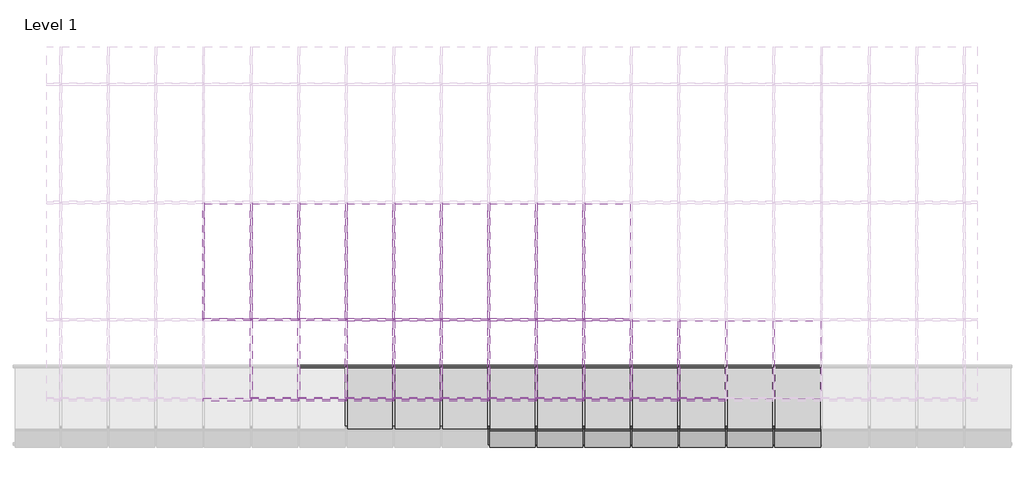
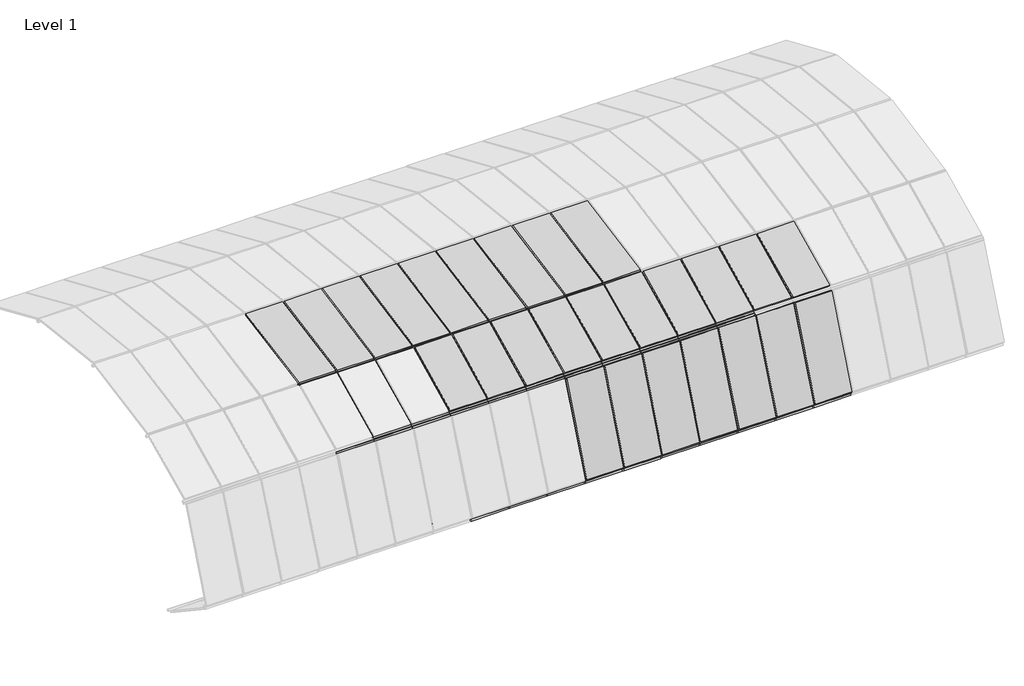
# One storey, part 18 of 23: 84 members, 36 plates.
"""IFC4 building model written with IfcOpenShell, lengths in millimetres."""

from ifc_helpers import new_model, si_unit, origin, place, context, project, spatial, transform, mapped, element, save
from components import member_0f8f75f6, member_68981e21, member_3e1f1dd8, member_42213d33, member_14e241b9, member_309acb9e, system_panel_glazed_36155e08, system_panel_glazed_4484050c, system_panel_glazed_e96a6bf3, system_panel_glazed_a8ce3bc7

model = new_model("IFC4")

# Units and contexts
model_context = context("Model", 3, world=origin())
ifc_project = project(units=[si_unit("LENGTHUNIT", "METRE", prefix="MILLI")], contexts=[model_context])

# Site, building, storey
site = spatial("IfcSite", under=ifc_project)
building = spatial("IfcBuilding", under=site)
storey = spatial("IfcBuildingStorey", under=building, Name="Level 1", Elevation=0.0)

# Members
placement = place(None, origin())
member_shape = member_0f8f75f6(model_context)
element("IfcMember", 1, ObjectType="Rectangular Mullion : 1\" Square", at=placement, inside=storey, context=model_context, shape_type="MappedRepresentation", body=[
    mapped(member_shape, transform((-159.3499814, 2518.7804857, 14.1400027), x_axis=(0.9999999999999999, 0.0, 0.0), y_axis=(0.0, -0.5566930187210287, -0.8307182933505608), z_axis=(0.0, 0.8307182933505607, -0.5566930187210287))),
])
element("IfcMember", 2, ObjectType="Rectangular Mullion : 1\" Square", at=placement, inside=storey, context=model_context, shape_type="MappedRepresentation", body=[
    mapped(member_shape, transform((-3816.9499814, 2518.7804857, 14.1400027), x_axis=(1.0, 0.0, 0.0), y_axis=(0.0, -0.5566930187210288, -0.8307182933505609), z_axis=(0.0, 0.8307182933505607, -0.5566930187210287))),
])
element("IfcMember", 3, ObjectType="Rectangular Mullion : 1\" Square", at=placement, inside=storey, context=model_context, shape_type="MappedRepresentation", body=[
    mapped(member_shape, transform((-3207.3499814, 2518.7804857, 14.1400027), x_axis=(1.0, 0.0, 0.0), y_axis=(0.0, -0.5566930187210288, -0.8307182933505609), z_axis=(0.0, 0.8307182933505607, -0.5566930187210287))),
])
element("IfcMember", 4, ObjectType="Rectangular Mullion : 1\" Square", at=placement, inside=storey, context=model_context, shape_type="MappedRepresentation", body=[
    mapped(member_shape, transform((-2597.7499814, 2518.7804857, 14.1400027), x_axis=(1.0, 0.0, 0.0), y_axis=(0.0, -0.5566930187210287, -0.8307182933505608), z_axis=(0.0, 0.8307182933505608, -0.5566930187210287))),
])
element("IfcMember", 5, ObjectType="Rectangular Mullion : 1\" Square", at=placement, inside=storey, context=model_context, shape_type="MappedRepresentation", body=[
    mapped(member_shape, transform((-1988.1499814, 2518.7804857, 14.1400027), x_axis=(1.0, 0.0, 0.0), y_axis=(0.0, -0.5566930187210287, -0.8307182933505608), z_axis=(0.0, 0.8307182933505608, -0.5566930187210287))),
])
element("IfcMember", 6, ObjectType="Rectangular Mullion : 1\" Square", at=placement, inside=storey, context=model_context, shape_type="MappedRepresentation", body=[
    mapped(member_shape, transform((-1378.5499814, 2518.7804857, 14.1400027), x_axis=(1.0, 0.0, 0.0), y_axis=(0.0, -0.5566930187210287, -0.8307182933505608), z_axis=(0.0, 0.8307182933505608, -0.5566930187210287))),
])
element("IfcMember", 7, ObjectType="Rectangular Mullion : 1\" Square", at=placement, inside=storey, context=model_context, shape_type="MappedRepresentation", body=[
    mapped(member_shape, transform((-768.9499814, 2518.7804857, 14.1400027), x_axis=(0.9999999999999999, 0.0, 0.0), y_axis=(0.0, -0.5566930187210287, -0.8307182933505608), z_axis=(0.0, 0.8307182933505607, -0.5566930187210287))),
])
element("IfcMember", 8, ObjectType="Rectangular Mullion : 1\" Square", at=placement, inside=storey, context=model_context, shape_type="MappedRepresentation", body=[
    mapped(member_shape, transform((-5645.7499814, 2518.7804857, 14.1400027), x_axis=(1.0, 0.0, 0.0), y_axis=(0.0, -0.5566930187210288, -0.8307182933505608), z_axis=(0.0, 0.8307182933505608, -0.5566930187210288))),
])
element("IfcMember", 9, ObjectType="Rectangular Mullion : 1\" Square", at=placement, inside=storey, context=model_context, shape_type="MappedRepresentation", body=[
    mapped(member_shape, transform((-5036.1499814, 2518.7804857, 14.1400027), x_axis=(1.0, 0.0, 0.0), y_axis=(0.0, -0.5566930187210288, -0.8307182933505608), z_axis=(0.0, 0.8307182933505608, -0.5566930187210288))),
])
element("IfcMember", 10, ObjectType="Rectangular Mullion : 1\" Square", at=placement, inside=storey, context=model_context, shape_type="MappedRepresentation", body=[
    mapped(member_shape, transform((-4426.5499814, 2518.7804857, 14.1400027), x_axis=(1.0, 0.0, 0.0), y_axis=(0.0, -0.5566930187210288, -0.8307182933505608), z_axis=(0.0, 0.8307182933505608, -0.5566930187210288))),
])
member_2_shape = member_68981e21(model_context)
element("IfcMember", 11, ObjectType="Rectangular Mullion : 1\" Square", at=placement, inside=storey, context=model_context, shape_type="MappedRepresentation", body=[
    mapped(member_2_shape, transform((-4426.5499814, 2539.8807303, 0.0), x_axis=(0.0, 0.8307182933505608, -0.5566930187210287), y_axis=(0.0, -0.5566930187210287, -0.8307182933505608), z_axis=(-1.0, 0.0, 0.0))),
])
element("IfcMember", 12, ObjectType="Rectangular Mullion : 1\" Square", at=placement, inside=storey, context=model_context, shape_type="MappedRepresentation", body=[
    mapped(member_2_shape, transform((-3816.9499814, 2539.8807303, 0.0), x_axis=(0.0, 0.8307182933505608, -0.5566930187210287), y_axis=(0.0, -0.5566930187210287, -0.8307182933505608), z_axis=(-1.0, 0.0, 0.0))),
])
element("IfcMember", 13, ObjectType="Rectangular Mullion : 1\" Square", at=placement, inside=storey, context=model_context, shape_type="MappedRepresentation", body=[
    mapped(member_2_shape, transform((-3207.3499814, 2539.8807303, 0.0), x_axis=(0.0, 0.8307182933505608, -0.5566930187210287), y_axis=(0.0, -0.5566930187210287, -0.8307182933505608), z_axis=(-1.0, 0.0, 0.0))),
])
element("IfcMember", 14, ObjectType="Rectangular Mullion : 1\" Square", at=placement, inside=storey, context=model_context, shape_type="MappedRepresentation", body=[
    mapped(member_2_shape, transform((-2597.7499814, 2539.8807303, 0.0), x_axis=(0.0, 0.8307182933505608, -0.5566930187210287), y_axis=(0.0, -0.5566930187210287, -0.8307182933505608), z_axis=(-1.0, 0.0, 0.0))),
])
element("IfcMember", 15, ObjectType="Rectangular Mullion : 1\" Square", at=placement, inside=storey, context=model_context, shape_type="MappedRepresentation", body=[
    mapped(member_2_shape, transform((-1988.1499814, 2539.8807303, 0.0), x_axis=(0.0, 0.8307182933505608, -0.5566930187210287), y_axis=(0.0, -0.5566930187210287, -0.8307182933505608), z_axis=(-1.0, 0.0, 0.0))),
])
element("IfcMember", 16, ObjectType="Rectangular Mullion : 1\" Square", at=placement, inside=storey, context=model_context, shape_type="MappedRepresentation", body=[
    mapped(member_2_shape, transform((-1378.5499814, 2539.8807303, 0.0), x_axis=(0.0, 0.8307182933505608, -0.5566930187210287), y_axis=(0.0, -0.5566930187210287, -0.8307182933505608), z_axis=(-1.0, 0.0, 0.0))),
])
element("IfcMember", 17, ObjectType="Rectangular Mullion : 1\" Square", at=placement, inside=storey, context=model_context, shape_type="MappedRepresentation", body=[
    mapped(member_2_shape, transform((-768.9499814, 2539.8807303, 0.0), x_axis=(0.0, 0.8307182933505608, -0.5566930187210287), y_axis=(0.0, -0.5566930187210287, -0.8307182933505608), z_axis=(-1.0, 0.0, 0.0))),
])
element("IfcMember", 18, ObjectType="Rectangular Mullion : 1\" Square", at=placement, inside=storey, context=model_context, shape_type="MappedRepresentation", body=[
    mapped(member_2_shape, transform((-159.3499814, 2539.8807303, 0.0), x_axis=(0.0, 0.8307182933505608, -0.5566930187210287), y_axis=(0.0, -0.5566930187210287, -0.8307182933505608), z_axis=(-1.0, 0.0, 0.0))),
])
element("IfcMember", 19, ObjectType="Rectangular Mullion : 1\" Square", at=placement, inside=storey, context=model_context, shape_type="MappedRepresentation", body=[
    mapped(member_2_shape, transform((-6255.3499814, 2539.8807303, 0.0), x_axis=(0.0, 0.8307182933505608, -0.5566930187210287), y_axis=(0.0, -0.5566930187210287, -0.8307182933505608), z_axis=(-1.0, 0.0, 0.0))),
])
element("IfcMember", 20, ObjectType="Rectangular Mullion : 1\" Square", at=placement, inside=storey, context=model_context, shape_type="MappedRepresentation", body=[
    mapped(member_2_shape, transform((-5645.7499814, 2539.8807303, 0.0), x_axis=(0.0, 0.8307182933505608, -0.5566930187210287), y_axis=(0.0, -0.5566930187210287, -0.8307182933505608), z_axis=(-1.0, 0.0, 0.0))),
])
element("IfcMember", 21, ObjectType="Rectangular Mullion : 1\" Square", at=placement, inside=storey, context=model_context, shape_type="MappedRepresentation", body=[
    mapped(member_2_shape, transform((-5036.1499814, 2539.8807303, 0.0), x_axis=(0.0, 0.8307182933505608, -0.5566930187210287), y_axis=(0.0, -0.5566930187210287, -0.8307182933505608), z_axis=(-1.0, 0.0, 0.0))),
])
element("IfcMember", 22, ObjectType="Rectangular Mullion : 1\" Square", at=placement, inside=storey, context=model_context, shape_type="MappedRepresentation", body=[
    mapped(member_2_shape, transform((-6864.9499814, 2108.5088854, 2085.6089632), x_axis=(0.0, -0.9009025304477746, -0.4340214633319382), y_axis=(0.0, -0.4340214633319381, 0.9009025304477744), z_axis=(-1.0, 0.0, 0.0))),
])
element("IfcMember", 23, ObjectType="Rectangular Mullion : 1\" Square", at=placement, inside=storey, context=model_context, shape_type="MappedRepresentation", body=[
    mapped(member_2_shape, transform((-6255.3499814, 2108.5088854, 2085.6089632), x_axis=(0.0, -0.9009025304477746, -0.4340214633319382), y_axis=(0.0, -0.4340214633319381, 0.9009025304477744), z_axis=(-1.0, 0.0, 0.0))),
])
element("IfcMember", 24, ObjectType="Rectangular Mullion : 1\" Square", at=placement, inside=storey, context=model_context, shape_type="MappedRepresentation", body=[
    mapped(member_2_shape, transform((-5645.7499814, 2108.5088854, 2085.6089632), x_axis=(0.0, -0.9009025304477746, -0.4340214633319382), y_axis=(0.0, -0.4340214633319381, 0.9009025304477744), z_axis=(-1.0, 0.0, 0.0))),
])
element("IfcMember", 25, ObjectType="Rectangular Mullion : 1\" Square", at=placement, inside=storey, context=model_context, shape_type="MappedRepresentation", body=[
    mapped(member_2_shape, transform((-5036.1499814, 2108.5088854, 2085.6089632), x_axis=(0.0, -0.9009025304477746, -0.4340214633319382), y_axis=(0.0, -0.4340214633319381, 0.9009025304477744), z_axis=(-1.0, 0.0, 0.0))),
])
element("IfcMember", 26, ObjectType="Rectangular Mullion : 1\" Square", at=placement, inside=storey, context=model_context, shape_type="MappedRepresentation", body=[
    mapped(member_2_shape, transform((-4426.5499814, 2108.5088854, 2085.6089632), x_axis=(0.0, -0.9009025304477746, -0.4340214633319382), y_axis=(0.0, -0.4340214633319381, 0.9009025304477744), z_axis=(-1.0, 0.0, 0.0))),
])
element("IfcMember", 27, ObjectType="Rectangular Mullion : 1\" Square", at=placement, inside=storey, context=model_context, shape_type="MappedRepresentation", body=[
    mapped(member_2_shape, transform((-3816.9499814, 2108.5088854, 2085.6089632), x_axis=(0.0, -0.9009025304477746, -0.4340214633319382), y_axis=(0.0, -0.4340214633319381, 0.9009025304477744), z_axis=(-1.0, 0.0, 0.0))),
])
element("IfcMember", 28, ObjectType="Rectangular Mullion : 1\" Square", at=placement, inside=storey, context=model_context, shape_type="MappedRepresentation", body=[
    mapped(member_2_shape, transform((-3207.3499814, 2108.5088854, 2085.6089632), x_axis=(0.0, -0.9009025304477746, -0.4340214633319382), y_axis=(0.0, -0.4340214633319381, 0.9009025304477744), z_axis=(-1.0, 0.0, 0.0))),
])
element("IfcMember", 29, ObjectType="Rectangular Mullion : 1\" Square", at=placement, inside=storey, context=model_context, shape_type="MappedRepresentation", body=[
    mapped(member_2_shape, transform((-2597.7499814, 2108.5088854, 2085.6089632), x_axis=(0.0, -0.9009025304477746, -0.4340214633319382), y_axis=(0.0, -0.4340214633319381, 0.9009025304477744), z_axis=(-1.0, 0.0, 0.0))),
])
element("IfcMember", 30, ObjectType="Rectangular Mullion : 1\" Square", at=placement, inside=storey, context=model_context, shape_type="MappedRepresentation", body=[
    mapped(member_2_shape, transform((-1988.1499814, 2108.5088854, 2085.6089632), x_axis=(0.0, -0.9009025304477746, -0.4340214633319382), y_axis=(0.0, -0.4340214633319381, 0.9009025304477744), z_axis=(-1.0, 0.0, 0.0))),
])
element("IfcMember", 31, ObjectType="Rectangular Mullion : 1\" Square", at=placement, inside=storey, context=model_context, shape_type="MappedRepresentation", body=[
    mapped(member_2_shape, transform((-1378.5499814, 2108.5088854, 2085.6089632), x_axis=(0.0, -0.9009025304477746, -0.4340214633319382), y_axis=(0.0, -0.4340214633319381, 0.9009025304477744), z_axis=(-1.0, 0.0, 0.0))),
])
member_3_shape = member_3e1f1dd8(model_context)
element("IfcMember", 32, ObjectType="Rectangular Mullion : 1\" Square", at=placement, inside=storey, context=model_context, shape_type="MappedRepresentation", body=[
    mapped(member_3_shape, transform((-3816.9499814, 1534.1192339, 673.9955146), x_axis=(0.0, 0.38018576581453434, -0.9249101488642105), y_axis=(0.0, -0.9249101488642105, -0.38018576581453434), z_axis=(-1.0, 0.0, 0.0))),
])
element("IfcMember", 33, ObjectType="Rectangular Mullion : 1\" Square", at=placement, inside=storey, context=model_context, shape_type="MappedRepresentation", body=[
    mapped(member_3_shape, transform((-3207.3499814, 1534.1192339, 673.9955146), x_axis=(0.0, 0.38018576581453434, -0.9249101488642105), y_axis=(0.0, -0.9249101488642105, -0.38018576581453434), z_axis=(-1.0, 0.0, 0.0))),
])
element("IfcMember", 34, ObjectType="Rectangular Mullion : 1\" Square", at=placement, inside=storey, context=model_context, shape_type="MappedRepresentation", body=[
    mapped(member_3_shape, transform((-2597.7499814, 1534.1192339, 673.9955146), x_axis=(0.0, 0.38018576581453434, -0.9249101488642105), y_axis=(0.0, -0.9249101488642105, -0.38018576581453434), z_axis=(-1.0, 0.0, 0.0))),
])
element("IfcMember", 35, ObjectType="Rectangular Mullion : 1\" Square", at=placement, inside=storey, context=model_context, shape_type="MappedRepresentation", body=[
    mapped(member_3_shape, transform((-1988.1499814, 1534.1192339, 673.9955146), x_axis=(0.0, 0.38018576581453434, -0.9249101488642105), y_axis=(0.0, -0.9249101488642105, -0.38018576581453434), z_axis=(-1.0, 0.0, 0.0))),
])
element("IfcMember", 36, ObjectType="Rectangular Mullion : 1\" Square", at=placement, inside=storey, context=model_context, shape_type="MappedRepresentation", body=[
    mapped(member_3_shape, transform((-1378.5499814, 1534.1192339, 673.9955146), x_axis=(0.0, 0.38018576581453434, -0.9249101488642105), y_axis=(0.0, -0.9249101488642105, -0.38018576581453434), z_axis=(-1.0, 0.0, 0.0))),
])
element("IfcMember", 37, ObjectType="Rectangular Mullion : 1\" Square", at=placement, inside=storey, context=model_context, shape_type="MappedRepresentation", body=[
    mapped(member_3_shape, transform((-768.9499814, 1534.1192339, 673.9955146), x_axis=(0.0, 0.38018576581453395, -0.9249101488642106), y_axis=(0.0, -0.9249101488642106, -0.38018576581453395), z_axis=(-1.0, 0.0, 0.0))),
])
element("IfcMember", 38, ObjectType="Rectangular Mullion : 1\" Square", at=placement, inside=storey, context=model_context, shape_type="MappedRepresentation", body=[
    mapped(member_3_shape, transform((-159.3499814, 1534.1192339, 673.9955146), x_axis=(0.0, 0.38018576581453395, -0.9249101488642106), y_axis=(0.0, -0.9249101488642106, -0.38018576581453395), z_axis=(-1.0, 0.0, 0.0))),
])
element("IfcMember", 39, ObjectType="Rectangular Mullion : 1\" Square", at=placement, inside=storey, context=model_context, shape_type="MappedRepresentation", body=[
    mapped(member_3_shape, transform((-7474.5499814, 3134.3722562, 2579.8319299), x_axis=(0.0, -0.9436447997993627, -0.33095995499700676), y_axis=(0.0, -0.33095995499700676, 0.9436447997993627), z_axis=(-1.0, 0.0, 0.0))),
])
element("IfcMember", 40, ObjectType="Rectangular Mullion : 1\" Square", at=placement, inside=storey, context=model_context, shape_type="MappedRepresentation", body=[
    mapped(member_3_shape, transform((-6864.9499814, 3134.3722562, 2579.8319299), x_axis=(0.0, -0.9436447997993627, -0.33095995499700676), y_axis=(0.0, -0.33095995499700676, 0.9436447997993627), z_axis=(-1.0, 0.0, 0.0))),
])
element("IfcMember", 41, ObjectType="Rectangular Mullion : 1\" Square", at=placement, inside=storey, context=model_context, shape_type="MappedRepresentation", body=[
    mapped(member_3_shape, transform((-6255.3499814, 3134.3722562, 2579.8319299), x_axis=(0.0, -0.9436447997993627, -0.33095995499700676), y_axis=(0.0, -0.33095995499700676, 0.9436447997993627), z_axis=(-1.0, 0.0, 0.0))),
])
element("IfcMember", 42, ObjectType="Rectangular Mullion : 1\" Square", at=placement, inside=storey, context=model_context, shape_type="MappedRepresentation", body=[
    mapped(member_3_shape, transform((-5645.7499814, 3134.3722562, 2579.8319299), x_axis=(0.0, -0.9436447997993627, -0.33095995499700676), y_axis=(0.0, -0.33095995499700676, 0.9436447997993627), z_axis=(-1.0, 0.0, 0.0))),
])
element("IfcMember", 43, ObjectType="Rectangular Mullion : 1\" Square", at=placement, inside=storey, context=model_context, shape_type="MappedRepresentation", body=[
    mapped(member_3_shape, transform((-5036.1499814, 3134.3722562, 2579.8319299), x_axis=(0.0, -0.9436447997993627, -0.33095995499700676), y_axis=(0.0, -0.33095995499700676, 0.9436447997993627), z_axis=(-1.0, 0.0, 0.0))),
])
element("IfcMember", 44, ObjectType="Rectangular Mullion : 1\" Square", at=placement, inside=storey, context=model_context, shape_type="MappedRepresentation", body=[
    mapped(member_3_shape, transform((-4426.5499814, 3134.3722562, 2579.8319299), x_axis=(0.0, -0.9436447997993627, -0.33095995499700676), y_axis=(0.0, -0.33095995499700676, 0.9436447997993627), z_axis=(-1.0, 0.0, 0.0))),
])
element("IfcMember", 45, ObjectType="Rectangular Mullion : 1\" Square", at=placement, inside=storey, context=model_context, shape_type="MappedRepresentation", body=[
    mapped(member_3_shape, transform((-3816.9499814, 3134.3722562, 2579.8319299), x_axis=(0.0, -0.9436447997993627, -0.33095995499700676), y_axis=(0.0, -0.33095995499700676, 0.9436447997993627), z_axis=(-1.0, 0.0, 0.0))),
])
element("IfcMember", 46, ObjectType="Rectangular Mullion : 1\" Square", at=placement, inside=storey, context=model_context, shape_type="MappedRepresentation", body=[
    mapped(member_3_shape, transform((-3207.3499814, 3134.3722562, 2579.8319299), x_axis=(0.0, -0.9436447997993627, -0.33095995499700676), y_axis=(0.0, -0.33095995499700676, 0.9436447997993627), z_axis=(-1.0, 0.0, 0.0))),
])
element("IfcMember", 47, ObjectType="Rectangular Mullion : 1\" Square", at=placement, inside=storey, context=model_context, shape_type="MappedRepresentation", body=[
    mapped(member_3_shape, transform((-2597.7499814, 3134.3722562, 2579.8319299), x_axis=(0.0, -0.9436447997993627, -0.33095995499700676), y_axis=(0.0, -0.33095995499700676, 0.9436447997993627), z_axis=(-1.0, 0.0, 0.0))),
])
member_4_shape = member_42213d33(model_context)
element("IfcMember", 48, ObjectType="Rectangular Mullion : 1\" Square", at=placement, inside=storey, context=model_context, shape_type="MappedRepresentation", body=[
    mapped(member_4_shape, transform((-159.3499814, 1538.9058143, 685.75896), x_axis=(0.9999999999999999, 0.0, 0.0), y_axis=(0.0, -0.926255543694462, 0.376896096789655), z_axis=(0.0, -0.37689609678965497, -0.9262555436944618))),
])
element("IfcMember", 49, ObjectType="Rectangular Mullion : 1\" Square", at=placement, inside=storey, context=model_context, shape_type="MappedRepresentation", body=[
    mapped(member_4_shape, transform((-3207.3499814, 1538.9058143, 685.75896), x_axis=(1.0, 0.0, 0.0), y_axis=(0.0, -0.926255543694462, 0.3768960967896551), z_axis=(0.0, -0.37689609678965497, -0.9262555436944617))),
])
element("IfcMember", 50, ObjectType="Rectangular Mullion : 1\" Square", at=placement, inside=storey, context=model_context, shape_type="MappedRepresentation", body=[
    mapped(member_4_shape, transform((-2597.7499814, 1538.9058143, 685.75896), x_axis=(1.0, 0.0, 0.0), y_axis=(0.0, -0.926255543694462, 0.3768960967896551), z_axis=(0.0, -0.37689609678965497, -0.9262555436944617))),
])
element("IfcMember", 51, ObjectType="Rectangular Mullion : 1\" Square", at=placement, inside=storey, context=model_context, shape_type="MappedRepresentation", body=[
    mapped(member_4_shape, transform((-1988.1499814, 1538.9058143, 685.75896), x_axis=(1.0, 0.0, 0.0), y_axis=(0.0, -0.926255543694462, 0.3768960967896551), z_axis=(0.0, -0.37689609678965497, -0.9262555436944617))),
])
element("IfcMember", 52, ObjectType="Rectangular Mullion : 1\" Square", at=placement, inside=storey, context=model_context, shape_type="MappedRepresentation", body=[
    mapped(member_4_shape, transform((-1378.5499814, 1538.9058143, 685.75896), x_axis=(1.0, 0.0, 0.0), y_axis=(0.0, -0.926255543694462, 0.3768960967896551), z_axis=(0.0, -0.37689609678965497, -0.9262555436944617))),
])
element("IfcMember", 53, ObjectType="Rectangular Mullion : 1\" Square", at=placement, inside=storey, context=model_context, shape_type="MappedRepresentation", body=[
    mapped(member_4_shape, transform((-768.9499814, 1538.9058143, 685.75896), x_axis=(0.9999999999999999, 0.0, 0.0), y_axis=(0.0, -0.926255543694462, 0.376896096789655), z_axis=(0.0, -0.37689609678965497, -0.9262555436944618))),
])
element("IfcMember", 54, ObjectType="Rectangular Mullion : 1\" Square", at=placement, inside=storey, context=model_context, shape_type="MappedRepresentation", body=[
    mapped(member_4_shape, transform((-3816.9499814, 1538.9058143, 685.75896), x_axis=(1.0, 0.0, 0.0), y_axis=(0.0, -0.9262555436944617, 0.37689609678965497), z_axis=(0.0, -0.3768960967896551, -0.926255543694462))),
])
element("IfcMember", 55, ObjectType="Rectangular Mullion : 1\" Square", at=placement, inside=storey, context=model_context, shape_type="MappedRepresentation", body=[
    mapped(member_2_shape, transform((-1988.1499814, 2108.5088854, 2085.6089632), x_axis=(0.0, 0.37689609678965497, 0.9262555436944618), y_axis=(0.0, -0.9262555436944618, 0.37689609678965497), z_axis=(1.0, 0.0, 0.0))),
])
element("IfcMember", 56, ObjectType="Rectangular Mullion : 1\" Square", at=placement, inside=storey, context=model_context, shape_type="MappedRepresentation", body=[
    mapped(member_2_shape, transform((-1378.5499814, 2108.5088854, 2085.6089632), x_axis=(0.0, 0.37689609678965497, 0.9262555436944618), y_axis=(0.0, -0.9262555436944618, 0.37689609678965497), z_axis=(1.0, 0.0, 0.0))),
])
element("IfcMember", 57, ObjectType="Rectangular Mullion : 1\" Square", at=placement, inside=storey, context=model_context, shape_type="MappedRepresentation", body=[
    mapped(member_2_shape, transform((-768.9499814, 2108.5088854, 2085.6089632), x_axis=(0.0, 0.37689609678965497, 0.9262555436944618), y_axis=(0.0, -0.9262555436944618, 0.37689609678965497), z_axis=(1.0, 0.0, 0.0))),
])
element("IfcMember", 58, ObjectType="Rectangular Mullion : 1\" Square", at=placement, inside=storey, context=model_context, shape_type="MappedRepresentation", body=[
    mapped(member_2_shape, transform((-6864.9499814, 2108.5088854, 2085.6089632), x_axis=(0.0, 0.37689609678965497, 0.9262555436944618), y_axis=(0.0, -0.9262555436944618, 0.37689609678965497), z_axis=(1.0, 0.0, 0.0))),
])
element("IfcMember", 59, ObjectType="Rectangular Mullion : 1\" Square", at=placement, inside=storey, context=model_context, shape_type="MappedRepresentation", body=[
    mapped(member_2_shape, transform((-6255.3499814, 2108.5088854, 2085.6089632), x_axis=(0.0, 0.37689609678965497, 0.9262555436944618), y_axis=(0.0, -0.9262555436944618, 0.37689609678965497), z_axis=(1.0, 0.0, 0.0))),
])
element("IfcMember", 60, ObjectType="Rectangular Mullion : 1\" Square", at=placement, inside=storey, context=model_context, shape_type="MappedRepresentation", body=[
    mapped(member_2_shape, transform((-5645.7499814, 2108.5088854, 2085.6089632), x_axis=(0.0, 0.37689609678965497, 0.9262555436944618), y_axis=(0.0, -0.9262555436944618, 0.37689609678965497), z_axis=(1.0, 0.0, 0.0))),
])
element("IfcMember", 61, ObjectType="Rectangular Mullion : 1\" Square", at=placement, inside=storey, context=model_context, shape_type="MappedRepresentation", body=[
    mapped(member_2_shape, transform((-5036.1499814, 2108.5088854, 2085.6089632), x_axis=(0.0, 0.37689609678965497, 0.9262555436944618), y_axis=(0.0, -0.9262555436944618, 0.37689609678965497), z_axis=(1.0, 0.0, 0.0))),
])
element("IfcMember", 62, ObjectType="Rectangular Mullion : 1\" Square", at=placement, inside=storey, context=model_context, shape_type="MappedRepresentation", body=[
    mapped(member_2_shape, transform((-4426.5499814, 2108.5088854, 2085.6089632), x_axis=(0.0, 0.37689609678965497, 0.9262555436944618), y_axis=(0.0, -0.9262555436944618, 0.37689609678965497), z_axis=(1.0, 0.0, 0.0))),
])
element("IfcMember", 63, ObjectType="Rectangular Mullion : 1\" Square", at=placement, inside=storey, context=model_context, shape_type="MappedRepresentation", body=[
    mapped(member_2_shape, transform((-3816.9499814, 2108.5088854, 2085.6089632), x_axis=(0.0, 0.3768960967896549, 0.9262555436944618), y_axis=(0.0, -0.9262555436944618, 0.3768960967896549), z_axis=(1.0, 0.0, 0.0))),
])
element("IfcMember", 64, ObjectType="Rectangular Mullion : 1\" Square", at=placement, inside=storey, context=model_context, shape_type="MappedRepresentation", body=[
    mapped(member_2_shape, transform((-3207.3499814, 2108.5088854, 2085.6089632), x_axis=(0.0, 0.37689609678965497, 0.9262555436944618), y_axis=(0.0, -0.9262555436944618, 0.37689609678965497), z_axis=(1.0, 0.0, 0.0))),
])
element("IfcMember", 65, ObjectType="Rectangular Mullion : 1\" Square", at=placement, inside=storey, context=model_context, shape_type="MappedRepresentation", body=[
    mapped(member_2_shape, transform((-2597.7499814, 2108.5088854, 2085.6089632), x_axis=(0.0, 0.37689609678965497, 0.9262555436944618), y_axis=(0.0, -0.9262555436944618, 0.37689609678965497), z_axis=(1.0, 0.0, 0.0))),
])
member_5_shape = member_14e241b9(model_context)
element("IfcMember", 66, ObjectType="Rectangular Mullion : 1\" Square", at=placement, inside=storey, context=model_context, shape_type="MappedRepresentation", body=[
    mapped(member_5_shape, transform((-2597.7499814, 2131.3918096, 2096.6331083), x_axis=(1.0, 0.0, 0.0), y_axis=(0.0, -0.4340214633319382, 0.9009025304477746), z_axis=(0.0, -0.9009025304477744, -0.4340214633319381))),
])
element("IfcMember", 67, ObjectType="Rectangular Mullion : 1\" Square", at=placement, inside=storey, context=model_context, shape_type="MappedRepresentation", body=[
    mapped(member_5_shape, transform((-1988.1499814, 2131.3918096, 2096.6331083), x_axis=(1.0, 0.0, 0.0), y_axis=(0.0, -0.4340214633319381, 0.9009025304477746), z_axis=(0.0, -0.9009025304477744, -0.434021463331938))),
])
element("IfcMember", 68, ObjectType="Rectangular Mullion : 1\" Square", at=placement, inside=storey, context=model_context, shape_type="MappedRepresentation", body=[
    mapped(member_5_shape, transform((-1378.5499814, 2131.3918096, 2096.6331083), x_axis=(1.0, 0.0, 0.0), y_axis=(0.0, -0.4340214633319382, 0.9009025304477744), z_axis=(0.0, -0.9009025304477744, -0.4340214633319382))),
])
element("IfcMember", 69, ObjectType="Rectangular Mullion : 1\" Square", at=placement, inside=storey, context=model_context, shape_type="MappedRepresentation", body=[
    mapped(member_5_shape, transform((-5645.7499814, 2131.3918096, 2096.6331083), x_axis=(1.0, 0.0, 0.0), y_axis=(0.0, -0.4340214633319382, 0.9009025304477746), z_axis=(0.0, -0.9009025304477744, -0.4340214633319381))),
])
element("IfcMember", 70, ObjectType="Rectangular Mullion : 1\" Square", at=placement, inside=storey, context=model_context, shape_type="MappedRepresentation", body=[
    mapped(member_5_shape, transform((-5036.1499814, 2131.3918096, 2096.6331083), x_axis=(1.0, 0.0, 0.0), y_axis=(0.0, -0.4340214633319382, 0.9009025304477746), z_axis=(0.0, -0.9009025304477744, -0.4340214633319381))),
])
element("IfcMember", 71, ObjectType="Rectangular Mullion : 1\" Square", at=placement, inside=storey, context=model_context, shape_type="MappedRepresentation", body=[
    mapped(member_5_shape, transform((-4426.5499814, 2131.3918096, 2096.6331083), x_axis=(1.0, 0.0, 0.0), y_axis=(0.0, -0.4340214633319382, 0.9009025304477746), z_axis=(0.0, -0.9009025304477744, -0.4340214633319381))),
])
element("IfcMember", 72, ObjectType="Rectangular Mullion : 1\" Square", at=placement, inside=storey, context=model_context, shape_type="MappedRepresentation", body=[
    mapped(member_5_shape, transform((-3816.9499814, 2131.3918096, 2096.6331083), x_axis=(1.0, 0.0, 0.0), y_axis=(0.0, -0.4340214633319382, 0.9009025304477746), z_axis=(0.0, -0.9009025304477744, -0.4340214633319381))),
])
element("IfcMember", 73, ObjectType="Rectangular Mullion : 1\" Square", at=placement, inside=storey, context=model_context, shape_type="MappedRepresentation", body=[
    mapped(member_5_shape, transform((-3207.3499814, 2131.3918096, 2096.6331083), x_axis=(1.0, 0.0, 0.0), y_axis=(0.0, -0.4340214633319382, 0.9009025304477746), z_axis=(0.0, -0.9009025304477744, -0.4340214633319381))),
])
element("IfcMember", 74, ObjectType="Rectangular Mullion : 1\" Square", at=placement, inside=storey, context=model_context, shape_type="MappedRepresentation", body=[
    mapped(member_5_shape, transform((-6864.9499814, 2131.3918096, 2096.6331083), x_axis=(1.0, 0.0, 0.0), y_axis=(0.0, -0.43402146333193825, 0.9009025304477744), z_axis=(0.0, -0.9009025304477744, -0.43402146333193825))),
])
element("IfcMember", 75, ObjectType="Rectangular Mullion : 1\" Square", at=placement, inside=storey, context=model_context, shape_type="MappedRepresentation", body=[
    mapped(member_5_shape, transform((-6255.3499814, 2131.3918096, 2096.6331083), x_axis=(1.0, 0.0, 0.0), y_axis=(0.0, -0.4340214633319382, 0.9009025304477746), z_axis=(0.0, -0.9009025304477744, -0.4340214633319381))),
])
member_6_shape = member_309acb9e(model_context)
element("IfcMember", 76, ObjectType="Rectangular Mullion : 1\" Square", at=placement, inside=storey, context=model_context, shape_type="MappedRepresentation", body=[
    mapped(member_6_shape, transform((-5645.7499814, 3146.8492645, 2582.2013738), x_axis=(1.0, 0.0, 0.0), y_axis=(0.0, -0.18657038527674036, 0.9824415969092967), z_axis=(0.0, -0.9824415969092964, -0.18657038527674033))),
])
element("IfcMember", 77, ObjectType="Rectangular Mullion : 1\" Square", at=placement, inside=storey, context=model_context, shape_type="MappedRepresentation", body=[
    mapped(member_6_shape, transform((-5036.1499814, 3146.8492645, 2582.2013738), x_axis=(1.0, 0.0, 0.0), y_axis=(0.0, -0.18657038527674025, 0.9824415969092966), z_axis=(0.0, -0.9824415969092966, -0.18657038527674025))),
])
element("IfcMember", 78, ObjectType="Rectangular Mullion : 1\" Square", at=placement, inside=storey, context=model_context, shape_type="MappedRepresentation", body=[
    mapped(member_6_shape, transform((-4426.5499814, 3146.8492645, 2582.2013738), x_axis=(1.0, 0.0, 0.0), y_axis=(0.0, -0.18657038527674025, 0.9824415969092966), z_axis=(0.0, -0.9824415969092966, -0.18657038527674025))),
])
element("IfcMember", 79, ObjectType="Rectangular Mullion : 1\" Square", at=placement, inside=storey, context=model_context, shape_type="MappedRepresentation", body=[
    mapped(member_6_shape, transform((-3816.9499814, 3146.8492645, 2582.2013738), x_axis=(1.0, 0.0, 0.0), y_axis=(0.0, -0.18657038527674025, 0.9824415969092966), z_axis=(0.0, -0.9824415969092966, -0.18657038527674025))),
])
element("IfcMember", 80, ObjectType="Rectangular Mullion : 1\" Square", at=placement, inside=storey, context=model_context, shape_type="MappedRepresentation", body=[
    mapped(member_6_shape, transform((-3207.3499814, 3146.8492645, 2582.2013738), x_axis=(1.0, 0.0, 0.0), y_axis=(0.0, -0.18657038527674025, 0.9824415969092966), z_axis=(0.0, -0.9824415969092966, -0.18657038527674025))),
])
element("IfcMember", 81, ObjectType="Rectangular Mullion : 1\" Square", at=placement, inside=storey, context=model_context, shape_type="MappedRepresentation", body=[
    mapped(member_6_shape, transform((-2597.7499814, 3146.8492645, 2582.2013738), x_axis=(1.0, 0.0, 0.0), y_axis=(0.0, -0.18657038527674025, 0.9824415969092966), z_axis=(0.0, -0.9824415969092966, -0.18657038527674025))),
])
element("IfcMember", 82, ObjectType="Rectangular Mullion : 1\" Square", at=placement, inside=storey, context=model_context, shape_type="MappedRepresentation", body=[
    mapped(member_6_shape, transform((-7474.5499814, 3146.8492645, 2582.2013738), x_axis=(1.0, 0.0, 0.0), y_axis=(0.0, -0.18657038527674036, 0.9824415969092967), z_axis=(0.0, -0.9824415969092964, -0.18657038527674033))),
])
element("IfcMember", 83, ObjectType="Rectangular Mullion : 1\" Square", at=placement, inside=storey, context=model_context, shape_type="MappedRepresentation", body=[
    mapped(member_6_shape, transform((-6864.9499814, 3146.8492645, 2582.2013738), x_axis=(1.0, 0.0, 0.0), y_axis=(0.0, -0.18657038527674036, 0.9824415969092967), z_axis=(0.0, -0.9824415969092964, -0.18657038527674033))),
])
element("IfcMember", 84, ObjectType="Rectangular Mullion : 1\" Square", at=placement, inside=storey, context=model_context, shape_type="MappedRepresentation", body=[
    mapped(member_6_shape, transform((-6255.3499814, 3146.8492645, 2582.2013738), x_axis=(1.0, 0.0, 0.0), y_axis=(0.0, -0.18657038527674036, 0.9824415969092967), z_axis=(0.0, -0.9824415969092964, -0.18657038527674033))),
])

# Plates
system_panel_glazed_shape = system_panel_glazed_36155e08(model_context)
element("IfcPlate", 85, ObjectType="System Panel : Glazed", at=placement, inside=storey, context=model_context, shape_type="MappedRepresentation", body=[
    mapped(system_panel_glazed_shape, transform((-3804.2499814, 1818.9207694, 1373.9205162), x_axis=(0.0, -0.37689609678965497, -0.9262555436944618), y_axis=(0.0, 0.9262555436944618, -0.37689609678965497), z_axis=(1.0, 0.0, 0.0))),
])
element("IfcPlate", 86, ObjectType="System Panel : Glazed", at=placement, inside=storey, context=model_context, shape_type="MappedRepresentation", body=[
    mapped(system_panel_glazed_shape, transform((-3194.6499814, 1818.9207694, 1373.9205162), x_axis=(0.0, -0.37689609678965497, -0.9262555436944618), y_axis=(0.0, 0.9262555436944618, -0.37689609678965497), z_axis=(1.0, 0.0, 0.0))),
])
element("IfcPlate", 87, ObjectType="System Panel : Glazed", at=placement, inside=storey, context=model_context, shape_type="MappedRepresentation", body=[
    mapped(system_panel_glazed_shape, transform((-2585.0499814, 1818.9207694, 1373.9205162), x_axis=(0.0, -0.37689609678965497, -0.9262555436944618), y_axis=(0.0, 0.9262555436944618, -0.37689609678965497), z_axis=(1.0, 0.0, 0.0))),
])
element("IfcPlate", 88, ObjectType="System Panel : Glazed", at=placement, inside=storey, context=model_context, shape_type="MappedRepresentation", body=[
    mapped(system_panel_glazed_shape, transform((-1975.4499814, 1818.9207694, 1373.9205162), x_axis=(0.0, -0.37689609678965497, -0.9262555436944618), y_axis=(0.0, 0.9262555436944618, -0.37689609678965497), z_axis=(1.0, 0.0, 0.0))),
])
element("IfcPlate", 89, ObjectType="System Panel : Glazed", at=placement, inside=storey, context=model_context, shape_type="MappedRepresentation", body=[
    mapped(system_panel_glazed_shape, transform((-1365.8499814, 1818.9207694, 1373.9205162), x_axis=(0.0, -0.37689609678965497, -0.9262555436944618), y_axis=(0.0, 0.9262555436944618, -0.37689609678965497), z_axis=(1.0, 0.0, 0.0))),
])
element("IfcPlate", 90, ObjectType="System Panel : Glazed", at=placement, inside=storey, context=model_context, shape_type="MappedRepresentation", body=[
    mapped(system_panel_glazed_shape, transform((-756.2499814, 1818.9207694, 1373.9205162), x_axis=(0.0, -0.37689609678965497, -0.9262555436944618), y_axis=(0.0, 0.9262555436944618, -0.37689609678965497), z_axis=(1.0, 0.0, 0.0))),
])
element("IfcPlate", 91, ObjectType="System Panel : Glazed", at=placement, inside=storey, context=model_context, shape_type="MappedRepresentation", body=[
    mapped(system_panel_glazed_shape, transform((-146.6499814, 1818.9207694, 1373.9205162), x_axis=(0.0, -0.37689609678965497, -0.9262555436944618), y_axis=(0.0, 0.9262555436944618, -0.37689609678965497), z_axis=(1.0, 0.0, 0.0))),
])
system_panel_glazed_2_shape = system_panel_glazed_4484050c(model_context)
element("IfcPlate", 92, ObjectType="System Panel : Glazed", at=placement, inside=storey, context=model_context, shape_type="MappedRepresentation", body=[
    mapped(system_panel_glazed_2_shape, transform((-5633.0499814, 2031.7249209, 340.532758), x_axis=(0.0, 0.8307182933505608, -0.5566930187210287), y_axis=(0.0, 0.5566930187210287, 0.8307182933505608), z_axis=(1.0, 0.0, 0.0))),
])
element("IfcPlate", 93, ObjectType="System Panel : Glazed", at=placement, inside=storey, context=model_context, shape_type="MappedRepresentation", body=[
    mapped(system_panel_glazed_2_shape, transform((-5023.4499814, 2031.7249209, 340.532758), x_axis=(0.0, 0.8307182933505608, -0.5566930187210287), y_axis=(0.0, 0.5566930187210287, 0.8307182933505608), z_axis=(1.0, 0.0, 0.0))),
])
element("IfcPlate", 94, ObjectType="System Panel : Glazed", at=placement, inside=storey, context=model_context, shape_type="MappedRepresentation", body=[
    mapped(system_panel_glazed_2_shape, transform((-4413.8499814, 2031.7249209, 340.532758), x_axis=(0.0, 0.8307182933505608, -0.5566930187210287), y_axis=(0.0, 0.5566930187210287, 0.8307182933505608), z_axis=(1.0, 0.0, 0.0))),
])
element("IfcPlate", 95, ObjectType="System Panel : Glazed", at=placement, inside=storey, context=model_context, shape_type="MappedRepresentation", body=[
    mapped(system_panel_glazed_2_shape, transform((-3804.2499814, 2031.7249209, 340.532758), x_axis=(0.0, 0.8307182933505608, -0.5566930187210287), y_axis=(0.0, 0.5566930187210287, 0.8307182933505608), z_axis=(1.0, 0.0, 0.0))),
])
element("IfcPlate", 96, ObjectType="System Panel : Glazed", at=placement, inside=storey, context=model_context, shape_type="MappedRepresentation", body=[
    mapped(system_panel_glazed_2_shape, transform((-3194.6499814, 2031.7249209, 340.532758), x_axis=(0.0, 0.8307182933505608, -0.5566930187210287), y_axis=(0.0, 0.5566930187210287, 0.8307182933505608), z_axis=(1.0, 0.0, 0.0))),
])
element("IfcPlate", 97, ObjectType="System Panel : Glazed", at=placement, inside=storey, context=model_context, shape_type="MappedRepresentation", body=[
    mapped(system_panel_glazed_2_shape, transform((-2585.0499814, 2031.7249209, 340.532758), x_axis=(0.0, 0.8307182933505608, -0.5566930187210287), y_axis=(0.0, 0.5566930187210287, 0.8307182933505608), z_axis=(1.0, 0.0, 0.0))),
])
element("IfcPlate", 98, ObjectType="System Panel : Glazed", at=placement, inside=storey, context=model_context, shape_type="MappedRepresentation", body=[
    mapped(system_panel_glazed_2_shape, transform((-1975.4499814, 2031.7249209, 340.532758), x_axis=(0.0, 0.8307182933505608, -0.5566930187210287), y_axis=(0.0, 0.5566930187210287, 0.8307182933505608), z_axis=(1.0, 0.0, 0.0))),
])
element("IfcPlate", 99, ObjectType="System Panel : Glazed", at=placement, inside=storey, context=model_context, shape_type="MappedRepresentation", body=[
    mapped(system_panel_glazed_2_shape, transform((-1365.8499814, 2031.7249209, 340.532758), x_axis=(0.0, 0.8307182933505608, -0.5566930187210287), y_axis=(0.0, 0.5566930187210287, 0.8307182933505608), z_axis=(1.0, 0.0, 0.0))),
])
element("IfcPlate", 100, ObjectType="System Panel : Glazed", at=placement, inside=storey, context=model_context, shape_type="MappedRepresentation", body=[
    mapped(system_panel_glazed_2_shape, transform((-756.2499814, 2031.7249209, 340.532758), x_axis=(0.0, 0.8307182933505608, -0.5566930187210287), y_axis=(0.0, 0.5566930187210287, 0.8307182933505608), z_axis=(1.0, 0.0, 0.0))),
])
element("IfcPlate", 101, ObjectType="System Panel : Glazed", at=placement, inside=storey, context=model_context, shape_type="MappedRepresentation", body=[
    mapped(system_panel_glazed_2_shape, transform((-146.6499814, 2031.7249209, 340.532758), x_axis=(0.0, 0.8307182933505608, -0.5566930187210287), y_axis=(0.0, 0.5566930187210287, 0.8307182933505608), z_axis=(1.0, 0.0, 0.0))),
])
system_panel_glazed_3_shape = system_panel_glazed_e96a6bf3(model_context)
element("IfcPlate", 102, ObjectType="System Panel : Glazed", at=placement, inside=storey, context=model_context, shape_type="MappedRepresentation", body=[
    mapped(system_panel_glazed_3_shape, transform((-7461.8499814, 3882.992753, 2721.9985635), x_axis=(0.0, -0.9824415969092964, -0.18657038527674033), y_axis=(0.0, 0.18657038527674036, -0.9824415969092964), z_axis=(1.0, 0.0, 0.0))),
])
element("IfcPlate", 103, ObjectType="System Panel : Glazed", at=placement, inside=storey, context=model_context, shape_type="MappedRepresentation", body=[
    mapped(system_panel_glazed_3_shape, transform((-6852.2499814, 3882.992753, 2721.9985635), x_axis=(0.0, -0.9824415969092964, -0.18657038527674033), y_axis=(0.0, 0.18657038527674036, -0.9824415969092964), z_axis=(1.0, 0.0, 0.0))),
])
element("IfcPlate", 104, ObjectType="System Panel : Glazed", at=placement, inside=storey, context=model_context, shape_type="MappedRepresentation", body=[
    mapped(system_panel_glazed_3_shape, transform((-6242.6499814, 3882.992753, 2721.9985635), x_axis=(0.0, -0.9824415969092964, -0.18657038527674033), y_axis=(0.0, 0.18657038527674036, -0.9824415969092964), z_axis=(1.0, 0.0, 0.0))),
])
element("IfcPlate", 105, ObjectType="System Panel : Glazed", at=placement, inside=storey, context=model_context, shape_type="MappedRepresentation", body=[
    mapped(system_panel_glazed_3_shape, transform((-5633.0499814, 3882.992753, 2721.9985635), x_axis=(0.0, -0.9824415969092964, -0.18657038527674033), y_axis=(0.0, 0.18657038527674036, -0.9824415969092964), z_axis=(1.0, 0.0, 0.0))),
])
element("IfcPlate", 106, ObjectType="System Panel : Glazed", at=placement, inside=storey, context=model_context, shape_type="MappedRepresentation", body=[
    mapped(system_panel_glazed_3_shape, transform((-5023.4499814, 3882.992753, 2721.9985635), x_axis=(0.0, -0.9824415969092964, -0.18657038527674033), y_axis=(0.0, 0.18657038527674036, -0.9824415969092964), z_axis=(1.0, 0.0, 0.0))),
])
element("IfcPlate", 107, ObjectType="System Panel : Glazed", at=placement, inside=storey, context=model_context, shape_type="MappedRepresentation", body=[
    mapped(system_panel_glazed_3_shape, transform((-4413.8499814, 3882.992753, 2721.9985635), x_axis=(0.0, -0.9824415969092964, -0.18657038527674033), y_axis=(0.0, 0.18657038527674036, -0.9824415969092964), z_axis=(1.0, 0.0, 0.0))),
])
element("IfcPlate", 108, ObjectType="System Panel : Glazed", at=placement, inside=storey, context=model_context, shape_type="MappedRepresentation", body=[
    mapped(system_panel_glazed_3_shape, transform((-3804.2499814, 3882.992753, 2721.9985635), x_axis=(0.0, -0.9824415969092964, -0.18657038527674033), y_axis=(0.0, 0.18657038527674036, -0.9824415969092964), z_axis=(1.0, 0.0, 0.0))),
])
element("IfcPlate", 109, ObjectType="System Panel : Glazed", at=placement, inside=storey, context=model_context, shape_type="MappedRepresentation", body=[
    mapped(system_panel_glazed_3_shape, transform((-3194.6499814, 3882.992753, 2721.9985635), x_axis=(0.0, -0.9824415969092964, -0.18657038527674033), y_axis=(0.0, 0.18657038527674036, -0.9824415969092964), z_axis=(1.0, 0.0, 0.0))),
])
element("IfcPlate", 110, ObjectType="System Panel : Glazed", at=placement, inside=storey, context=model_context, shape_type="MappedRepresentation", body=[
    mapped(system_panel_glazed_3_shape, transform((-2585.0499814, 3882.992753, 2721.9985635), x_axis=(0.0, -0.9824415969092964, -0.18657038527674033), y_axis=(0.0, 0.18657038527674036, -0.9824415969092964), z_axis=(1.0, 0.0, 0.0))),
])
system_panel_glazed_4_shape = system_panel_glazed_a8ce3bc7(model_context)
element("IfcPlate", 111, ObjectType="System Panel : Glazed", at=placement, inside=storey, context=model_context, shape_type="MappedRepresentation", body=[
    mapped(system_panel_glazed_4_shape, transform((-5633.0499814, 2627.1613018, 2335.4764828), x_axis=(0.0, -0.9009025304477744, -0.4340214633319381), y_axis=(0.0, 0.4340214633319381, -0.9009025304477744), z_axis=(1.0, 0.0, 0.0))),
])
element("IfcPlate", 112, ObjectType="System Panel : Glazed", at=placement, inside=storey, context=model_context, shape_type="MappedRepresentation", body=[
    mapped(system_panel_glazed_4_shape, transform((-5023.4499814, 2627.1613018, 2335.4764828), x_axis=(0.0, -0.9009025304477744, -0.4340214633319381), y_axis=(0.0, 0.4340214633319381, -0.9009025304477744), z_axis=(1.0, 0.0, 0.0))),
])
element("IfcPlate", 113, ObjectType="System Panel : Glazed", at=placement, inside=storey, context=model_context, shape_type="MappedRepresentation", body=[
    mapped(system_panel_glazed_4_shape, transform((-4413.8499814, 2627.1613018, 2335.4764828), x_axis=(0.0, -0.9009025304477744, -0.4340214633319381), y_axis=(0.0, 0.4340214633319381, -0.9009025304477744), z_axis=(1.0, 0.0, 0.0))),
])
element("IfcPlate", 114, ObjectType="System Panel : Glazed", at=placement, inside=storey, context=model_context, shape_type="MappedRepresentation", body=[
    mapped(system_panel_glazed_4_shape, transform((-3804.2499814, 2627.1613018, 2335.4764828), x_axis=(0.0, -0.9009025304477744, -0.4340214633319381), y_axis=(0.0, 0.4340214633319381, -0.9009025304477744), z_axis=(1.0, 0.0, 0.0))),
])
element("IfcPlate", 115, ObjectType="System Panel : Glazed", at=placement, inside=storey, context=model_context, shape_type="MappedRepresentation", body=[
    mapped(system_panel_glazed_4_shape, transform((-3194.6499814, 2627.1613018, 2335.4764828), x_axis=(0.0, -0.9009025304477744, -0.4340214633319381), y_axis=(0.0, 0.4340214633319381, -0.9009025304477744), z_axis=(1.0, 0.0, 0.0))),
])
element("IfcPlate", 116, ObjectType="System Panel : Glazed", at=placement, inside=storey, context=model_context, shape_type="MappedRepresentation", body=[
    mapped(system_panel_glazed_4_shape, transform((-2585.0499814, 2627.1613018, 2335.4764828), x_axis=(0.0, -0.9009025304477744, -0.4340214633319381), y_axis=(0.0, 0.4340214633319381, -0.9009025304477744), z_axis=(1.0, 0.0, 0.0))),
])
element("IfcPlate", 117, ObjectType="System Panel : Glazed", at=placement, inside=storey, context=model_context, shape_type="MappedRepresentation", body=[
    mapped(system_panel_glazed_4_shape, transform((-1975.4499814, 2627.1613018, 2335.4764828), x_axis=(0.0, -0.9009025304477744, -0.4340214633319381), y_axis=(0.0, 0.4340214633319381, -0.9009025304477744), z_axis=(1.0, 0.0, 0.0))),
])
element("IfcPlate", 118, ObjectType="System Panel : Glazed", at=placement, inside=storey, context=model_context, shape_type="MappedRepresentation", body=[
    mapped(system_panel_glazed_4_shape, transform((-1365.8499814, 2627.1613018, 2335.4764828), x_axis=(0.0, -0.9009025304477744, -0.4340214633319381), y_axis=(0.0, 0.4340214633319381, -0.9009025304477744), z_axis=(1.0, 0.0, 0.0))),
])
element("IfcPlate", 119, ObjectType="System Panel : Glazed", at=placement, inside=storey, context=model_context, shape_type="MappedRepresentation", body=[
    mapped(system_panel_glazed_4_shape, transform((-756.2499814, 2627.1613018, 2335.4764828), x_axis=(0.0, -0.9009025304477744, -0.4340214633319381), y_axis=(0.0, 0.4340214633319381, -0.9009025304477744), z_axis=(1.0, 0.0, 0.0))),
])
element("IfcPlate", 120, ObjectType="System Panel : Glazed", at=placement, inside=storey, context=model_context, shape_type="MappedRepresentation", body=[
    mapped(system_panel_glazed_4_shape, transform((-146.6499814, 2627.1613018, 2335.4764828), x_axis=(0.0, -0.9009025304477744, -0.4340214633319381), y_axis=(0.0, 0.4340214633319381, -0.9009025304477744), z_axis=(1.0, 0.0, 0.0))),
])

save(model, "model.ifc")
